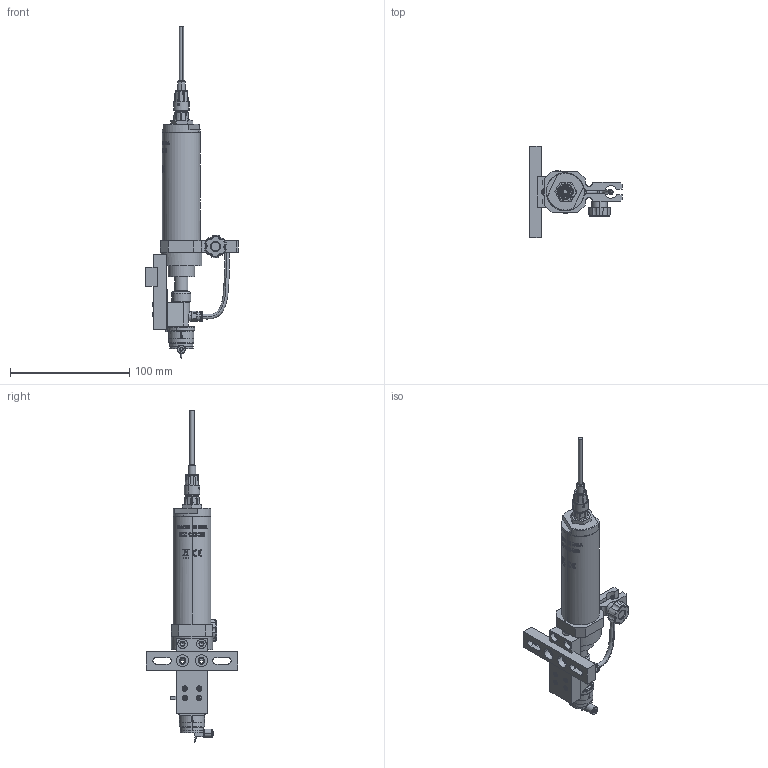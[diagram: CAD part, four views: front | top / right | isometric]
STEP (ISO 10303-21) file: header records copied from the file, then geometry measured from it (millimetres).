
FILE_DESCRIPTION (( 'STEP AP214' ), '1' );
FILE_NAME ('NORDSONEFD-7021917 AUGER VALVE, SLD HD, BRUSH MTR.STEP', '2019-02-04T03:29:34', ( '' ), ( '' ), 'SwSTEP 2.0', 'SolidWorks 2019', '' );
FILE_SCHEMA (( 'AUTOMOTIVE_DESIGN' ));
Length unit declared in the file: inch
Products named in the file (1): NORDSONEFD-7021917  AUGER VALVE, SLD HD, BRUSH MTR
Bounding box: 77.41 x 76.2 x 277.9 mm (x, y, z)
Volume: 88325.2 mm3; surface area: 76662.2 mm2
Topology: 41 solids, 41 shells, 2943 faces, 7327 edges, 4604 vertices
Faces by surface type: cylinder 928, plane 760, cone 599, bspline 503, torus 109, sphere 44
Entity records: 160219 total; most frequent: CARTESIAN_POINT 86853, ORIENTED_EDGE 14558, DIRECTION 12860, EDGE_CURVE 7279, AXIS2_PLACEMENT_3D 5062, VERTEX_POINT 4596, EDGE_LOOP 3233, ADVANCED_FACE 2943
